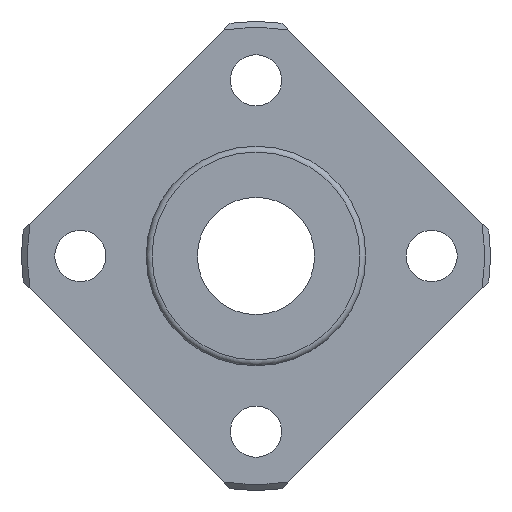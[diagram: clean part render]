
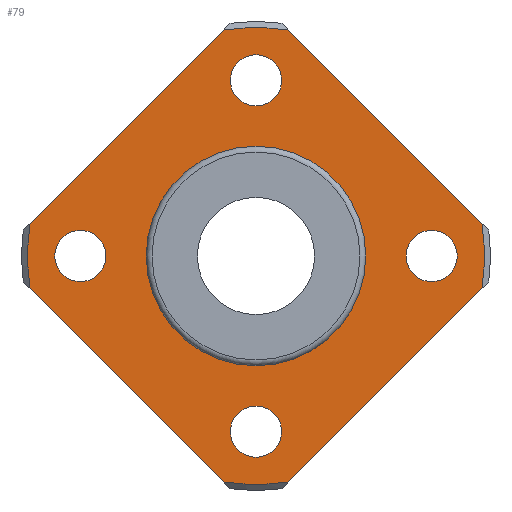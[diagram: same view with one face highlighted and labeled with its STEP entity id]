
A CAD part, left-side view. The second image highlights one B-rep face of the part: STEP entity #79.
In plain terms, the highlighted planar face has unit normal (-1, 0, 0).
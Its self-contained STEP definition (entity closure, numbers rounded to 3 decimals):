
#79=ADVANCED_FACE('',(#120,#121,#122,#123,#124,#125),#126,.T.);
#120=FACE_BOUND('',#220,.T.);
#121=FACE_BOUND('',#221,.T.);
#122=FACE_BOUND('',#222,.T.);
#123=FACE_BOUND('',#223,.T.);
#124=FACE_BOUND('',#224,.T.);
#125=FACE_OUTER_BOUND('',#225,.T.);
#126=PLANE('',#226);
#220=EDGE_LOOP('',(#352));
#221=EDGE_LOOP('',(#353));
#222=EDGE_LOOP('',(#354));
#223=EDGE_LOOP('',(#355));
#224=EDGE_LOOP('',(#356));
#225=EDGE_LOOP('',(#357,#358,#359,#360,#361,#362,#363,#364));
#226=AXIS2_PLACEMENT_3D('',#365,#366,#367);
#352=ORIENTED_EDGE('',*,*,#588,.F.);
#353=ORIENTED_EDGE('',*,*,#589,.T.);
#354=ORIENTED_EDGE('',*,*,#590,.T.);
#355=ORIENTED_EDGE('',*,*,#591,.T.);
#356=ORIENTED_EDGE('',*,*,#592,.T.);
#357=ORIENTED_EDGE('',*,*,#572,.T.);
#358=ORIENTED_EDGE('',*,*,#574,.T.);
#359=ORIENTED_EDGE('',*,*,#593,.T.);
#360=ORIENTED_EDGE('',*,*,#594,.T.);
#361=ORIENTED_EDGE('',*,*,#595,.T.);
#362=ORIENTED_EDGE('',*,*,#562,.T.);
#363=ORIENTED_EDGE('',*,*,#596,.T.);
#364=ORIENTED_EDGE('',*,*,#581,.T.);
#365=CARTESIAN_POINT('',(-5.0,0.,11.475));
#366=DIRECTION('',(-1.0,0.,0.));
#367=DIRECTION('',(0.,-1.0,0.));
#562=EDGE_CURVE('',#633,#634,#635,.T.);
#572=EDGE_CURVE('',#654,#652,#655,.T.);
#574=EDGE_CURVE('',#652,#657,#658,.T.);
#581=EDGE_CURVE('',#670,#654,#671,.T.);
#588=EDGE_CURVE('',#683,#683,#684,.T.);
#589=EDGE_CURVE('',#685,#685,#686,.T.);
#590=EDGE_CURVE('',#687,#687,#688,.T.);
#591=EDGE_CURVE('',#689,#689,#690,.T.);
#592=EDGE_CURVE('',#691,#691,#692,.T.);
#593=EDGE_CURVE('',#657,#693,#694,.T.);
#594=EDGE_CURVE('',#693,#695,#696,.T.);
#595=EDGE_CURVE('',#695,#633,#697,.T.);
#596=EDGE_CURVE('',#634,#670,#698,.T.);
#633=VERTEX_POINT('',#759);
#634=VERTEX_POINT('',#760);
#635=LINE('',#761,#762);
#652=VERTEX_POINT('',#794);
#654=VERTEX_POINT('',#799);
#655=CIRCLE('',#800,15.6);
#657=VERTEX_POINT('',#805);
#658=LINE('',#806,#807);
#670=VERTEX_POINT('',#831);
#671=LINE('',#832,#833);
#683=VERTEX_POINT('',#857);
#684=CIRCLE('',#858,7.35);
#685=VERTEX_POINT('',#859);
#686=CIRCLE('',#860,1.75);
#687=VERTEX_POINT('',#861);
#688=CIRCLE('',#862,1.75);
#689=VERTEX_POINT('',#863);
#690=CIRCLE('',#864,1.75);
#691=VERTEX_POINT('',#865);
#692=CIRCLE('',#866,1.75);
#693=VERTEX_POINT('',#867);
#694=CIRCLE('',#868,15.6);
#695=VERTEX_POINT('',#869);
#696=LINE('',#870,#871);
#697=CIRCLE('',#872,15.6);
#698=CIRCLE('',#873,15.6);
#759=CARTESIAN_POINT('',(-5.0,-2.239,-15.438));
#760=CARTESIAN_POINT('',(-5.0,-15.438,-2.239));
#761=CARTESIAN_POINT('',(-5.0,-14.576,-3.101));
#762=VECTOR('',#949,1.0);
#794=CARTESIAN_POINT('',(-5.0,2.239,15.438));
#799=CARTESIAN_POINT('',(-5.0,-2.239,15.438));
#800=AXIS2_PLACEMENT_3D('',#956,#957,#958);
#805=CARTESIAN_POINT('',(-5.0,15.438,2.239));
#806=CARTESIAN_POINT('',(-5.0,3.101,14.576));
#807=VECTOR('',#959,1.0);
#831=CARTESIAN_POINT('',(-5.0,-15.438,2.239));
#832=CARTESIAN_POINT('',(-5.0,-3.101,14.576));
#833=VECTOR('',#963,1.0);
#857=CARTESIAN_POINT('',(-5.0,0.,7.35));
#858=AXIS2_PLACEMENT_3D('',#967,#968,#969);
#859=CARTESIAN_POINT('',(-5.0,-1.75,12.0));
#860=AXIS2_PLACEMENT_3D('',#970,#971,#972);
#861=CARTESIAN_POINT('',(-5.0,-1.75,-12.0));
#862=AXIS2_PLACEMENT_3D('',#973,#974,#975);
#863=CARTESIAN_POINT('',(-5.0,10.25,0.));
#864=AXIS2_PLACEMENT_3D('',#976,#977,#978);
#865=CARTESIAN_POINT('',(-5.0,-13.75,0.));
#866=AXIS2_PLACEMENT_3D('',#979,#980,#981);
#867=CARTESIAN_POINT('',(-5.0,15.438,-2.239));
#868=AXIS2_PLACEMENT_3D('',#982,#983,#984);
#869=CARTESIAN_POINT('',(-5.0,2.239,-15.438));
#870=CARTESIAN_POINT('',(-5.0,14.576,-3.101));
#871=VECTOR('',#985,1.0);
#872=AXIS2_PLACEMENT_3D('',#986,#987,#988);
#873=AXIS2_PLACEMENT_3D('',#989,#990,#991);
#949=DIRECTION('',(0.,-0.707,0.707));
#956=CARTESIAN_POINT('',(-5.0,0.,0.));
#957=DIRECTION('',(-1.0,0.,0.));
#958=DIRECTION('',(0.,0.0,1.0));
#959=DIRECTION('',(0.,0.707,-0.707));
#963=DIRECTION('',(0.,0.707,0.707));
#967=CARTESIAN_POINT('',(-5.0,0.,0.));
#968=DIRECTION('',(-1.0,0.,0.));
#969=DIRECTION('',(0.,0.0,1.0));
#970=CARTESIAN_POINT('',(-5.0,0.,12.0));
#971=DIRECTION('',(1.0,0.,0.));
#972=DIRECTION('',(0.,1.0,0.));
#973=CARTESIAN_POINT('',(-5.0,0.,-12.0));
#974=DIRECTION('',(1.0,0.,0.));
#975=DIRECTION('',(0.,1.0,0.));
#976=CARTESIAN_POINT('',(-5.0,12.0,0.));
#977=DIRECTION('',(1.0,0.,0.));
#978=DIRECTION('',(0.,1.0,0.));
#979=CARTESIAN_POINT('',(-5.0,-12.0,0.));
#980=DIRECTION('',(1.0,0.,0.));
#981=DIRECTION('',(0.,1.0,0.));
#982=CARTESIAN_POINT('',(-5.0,0.,0.));
#983=DIRECTION('',(-1.0,0.,0.));
#984=DIRECTION('',(0.,0.0,1.0));
#985=DIRECTION('',(0.,-0.707,-0.707));
#986=CARTESIAN_POINT('',(-5.0,0.,0.));
#987=DIRECTION('',(-1.0,0.,0.));
#988=DIRECTION('',(0.,0.0,1.0));
#989=CARTESIAN_POINT('',(-5.0,0.,0.));
#990=DIRECTION('',(-1.0,0.,0.));
#991=DIRECTION('',(0.,0.0,1.0));
